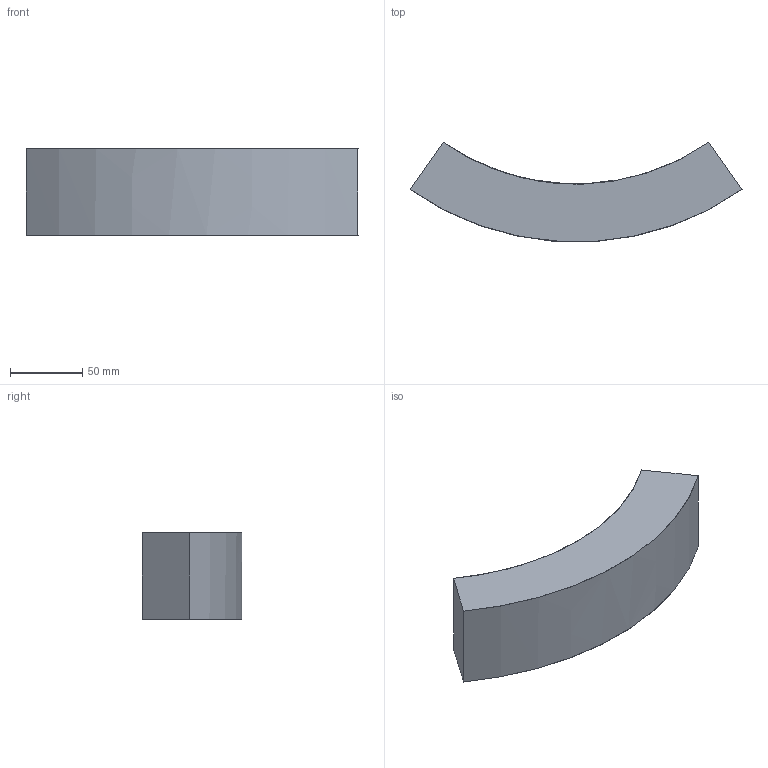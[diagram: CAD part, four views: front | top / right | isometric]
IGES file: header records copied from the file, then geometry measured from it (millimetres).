
Start section:  PTC IGES file: d160-1600_fixbloc_d160_pk-01.igs
Global section: file name: d160-1600_fixbloc_d160_pk-01.igs; native system: Creo Parametric by PTC Inc.; preprocessor: 2019030; author: demmerls; organization: Unknown; date: 20200925.091817; units: millimetre
Bounding box: 229.9 x 68.81 x 60 mm (x, y, z)
Surface area: 48886.5 mm2 (no closed solid volume)
Topology: 0 solids, 0 shells, 6 faces, 24 edges, 24 vertices
Faces by surface type: bspline 6
